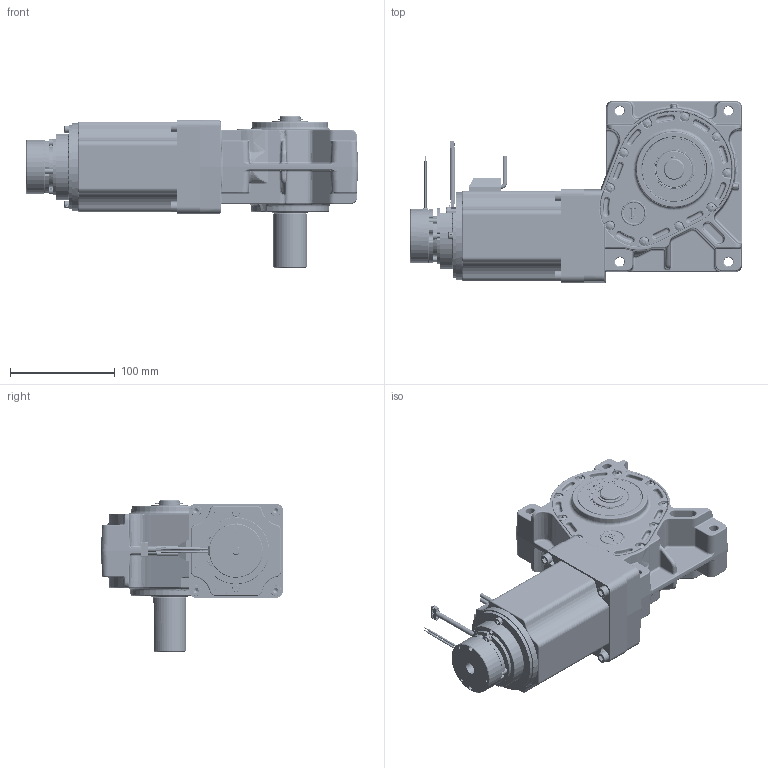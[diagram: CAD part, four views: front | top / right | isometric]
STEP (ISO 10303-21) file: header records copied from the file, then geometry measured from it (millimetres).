
FILE_DESCRIPTION (( 'STEP AP214' ), '1' );
FILE_NAME ('PBL86-55-GB65 - Encoder - Brake - Shaft.STEP', '2024-09-15T09:19:09', ( '' ), ( '' ), 'SwSTEP 2.0', 'SolidWorks 2023', '' );
FILE_SCHEMA (( 'AUTOMOTIVE_DESIGN' ));
Length unit declared in the file: millimetre
Products named in the file (1): PBL86-55-GB65 - Encoder - Brake - Shaft
Bounding box: 317.69 x 174.1 x 145 mm (x, y, z)
Surface area: 437539.3 mm2 (no closed solid volume)
Topology: 0 solids, 95 shells, 8930 faces, 23310 edges, 14605 vertices
Faces by surface type: cylinder 3192, plane 2697, bspline 1336, cone 813, torus 732, sphere 160
Entity records: 454790 total; most frequent: CARTESIAN_POINT 154081, ORIENTED_EDGE 46010, DIRECTION 37212, EDGE_CURVE 23007, AXIS2_PLACEMENT_3D 15115, VERTEX_POINT 14585, EDGE_LOOP 9554, UNCERTAINTY_MEASURE_WITH_UNIT 8997
